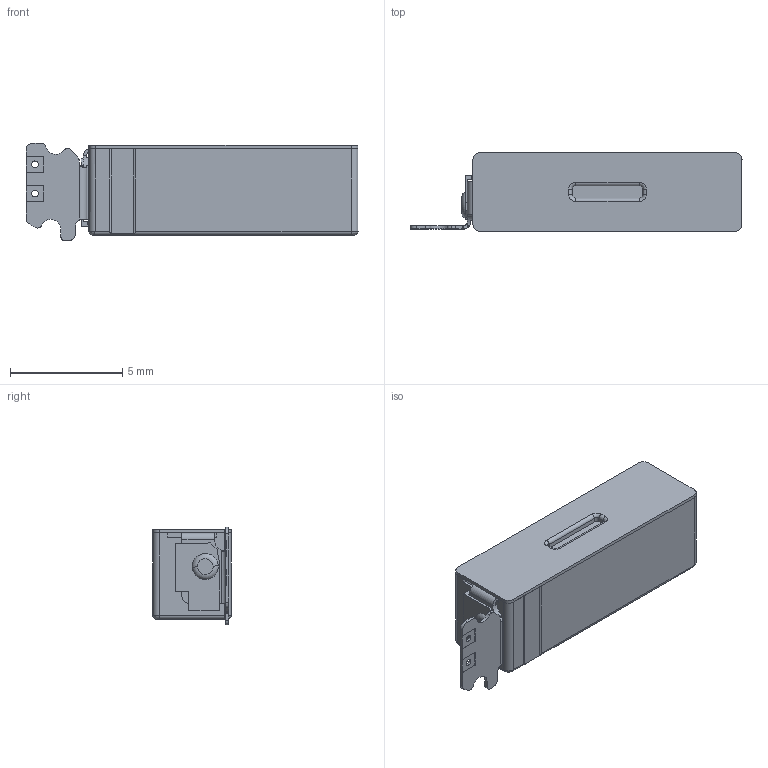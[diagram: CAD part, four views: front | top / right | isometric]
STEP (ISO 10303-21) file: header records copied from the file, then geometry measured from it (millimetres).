
FILE_DESCRIPTION(('FreeCAD Model'),'2;1');
FILE_NAME('Open CASCADE Shape Model','2025-04-15T11:54:24',('Author'),( ''),'Open CASCADE STEP processor 7.6','FreeCAD','Unknown');
FILE_SCHEMA(('AUTOMOTIVE_DESIGN { 1 0 10303 214 1 1 1 1 }'));
Length unit declared in the file: millimetre
Products named in the file (5): VLV041235L-FP421; SHANGJIKE_1_1_1_1_1_2_1_1_1__10; XIAJIKE_3_1_1_2_1_1_1_2_1_1_1_8; MOTOR-FPC-0326_2_1_1_1_1_1_1; GLUE-MOTOR-0629_1_1_1
Assembly tree (4 placements, depth 2):
  VLV041235L-FP421
    SHANGJIKE_1_1_1_1_1_2_1_1_1__10
    XIAJIKE_3_1_1_2_1_1_1_2_1_1_1_8
    MOTOR-FPC-0326_2_1_1_1_1_1_1
    GLUE-MOTOR-0629_1_1_1
Bounding box: 14.81 x 3.5 x 4.36 mm (x, y, z)
Volume: 30.2 mm3; surface area: 451.1 mm2
Topology: 4 solids, 4 shells, 178 faces, 491 edges, 323 vertices
Faces by surface type: plane 94, cylinder 70, bspline 8, torus 6
Entity records: 6022 total; most frequent: CARTESIAN_POINT 1226, DIRECTION 993, ORIENTED_EDGE 978, EDGE_CURVE 489, AXIS2_PLACEMENT_3D 341, VERTEX_POINT 323, LINE 311, VECTOR 311
